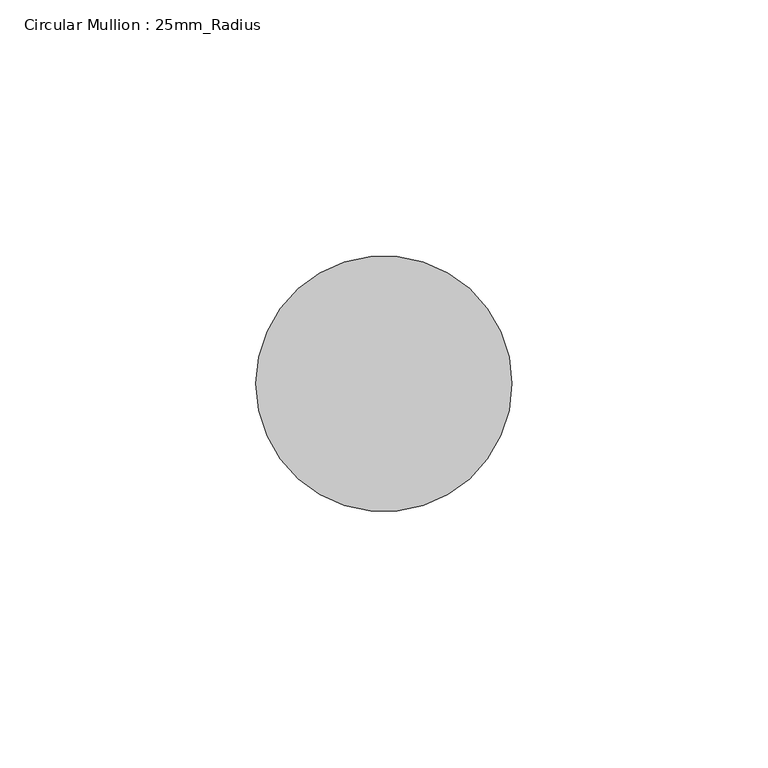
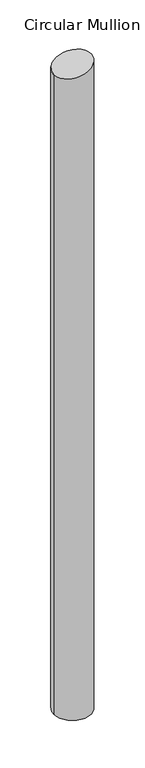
"""IFC4 building model written with IfcOpenShell, lengths in millimetres: member geometry, Circular Mullion : 25mm_Radius."""

from ifc_helpers import new_model, si_unit, frame, origin, place, context, project, spatial, circle_curve, ellipse_curve, source, transform, mapped, element, save
from ifc_brep_helpers import plane_surface, cylinder_surface, advanced_brep


def circular_mullion_25mm_radius_11aec00b(model_context):
    return source(origin(), model_context, "Body", "AdvancedBrep", [
        advanced_brep(
        [(-50.0, 0.0, -12.240473), (0.0, 0.0, 0.0), (0.0, 0.0, -919.291812), (-50.0, 0.0, -919.291812)],
        [
            (0, 1, ellipse_curve(frame((-25.0, 0.0, -6.1202365), z_axis=(0.23778763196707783, 0.0, -0.9713171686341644), x_axis=(0.9713171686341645, 0.0, 0.2377876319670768)), 25.7382458, 25.0)),
            (1, 2),
            (2, 3, circle_curve(frame((-25.0, 0.0, -919.291812), z_axis=(0.0, 0.0, 1.0), x_axis=(1.0, 0.0, 0.0)), 25.0)),
            (3, 0),
            (1, 0, ellipse_curve(frame((-25.0, 0.0, -6.1202365), z_axis=(0.23778763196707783, 0.0, -0.9713171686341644), x_axis=(0.9713171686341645, 0.0, 0.2377876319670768)), 25.7382458, 25.0)),
            (3, 2, circle_curve(frame((-25.0, 0.0, -919.291812), z_axis=(0.0, 0.0, 1.0), x_axis=(1.0, 0.0, 0.0)), 25.0)),
        ],
        [
            cylinder_surface(frame((-25.0, 0.0, 0.0), z_axis=(0.0, 0.0, 1.0), x_axis=(1.0, 0.0, 0.0)), 25.0),
            plane_surface(frame((0.0, -304.8, 0.0), z_axis=(-0.23778763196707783, 0.0, 0.9713171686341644), x_axis=(-0.9713171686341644, 0.0, -0.23778763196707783))),
            plane_surface(frame((-304.8, 0.0, -919.291812), z_axis=(0.0, 0.0, -1.0), x_axis=(0.0, 1.0, 0.0))),
        ],
        [
            (0, [[1, 2, 3, 4]]),
            (0, [[5, -4, 6, -2]]),
            (1, [[-1, -5]]),
            (2, [[-6, -3]]),
        ],
    ),
    ])


if __name__ == "__main__":
    model = new_model("IFC4")
    model_context = context("Model", 3, world=origin())
    ifc_project = project(units=[si_unit("LENGTHUNIT", "METRE", prefix="MILLI")], contexts=[model_context])
    site = spatial("IfcSite", under=ifc_project)
    building = spatial("IfcBuilding", under=site)
    placement = place(None, origin())
    circular_mullion_25mm_radius_shape = circular_mullion_25mm_radius_11aec00b(model_context)
    element("IfcMember", 1, ObjectType="Circular Mullion : 25mm_Radius", at=placement, inside=building, context=model_context, shape_type="MappedRepresentation", body=[
        mapped(circular_mullion_25mm_radius_shape, transform((0.0, 0.0, 0.0), x_axis=(1.0, 0.0, 0.0), y_axis=(0.0, 1.0, 0.0), z_axis=(0.0, 0.0, 1.0))),
    ])
    save(model, "model.ifc")
